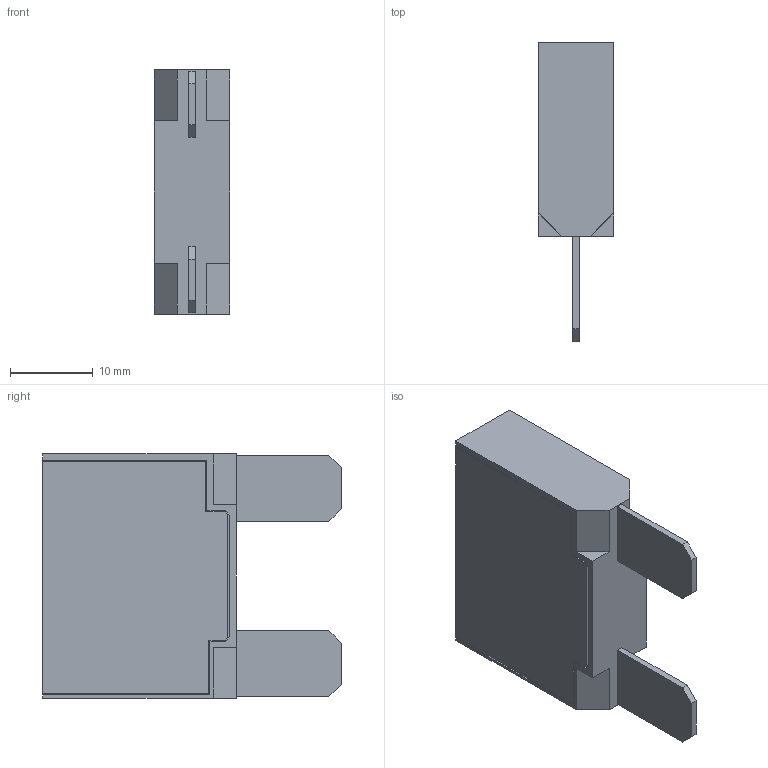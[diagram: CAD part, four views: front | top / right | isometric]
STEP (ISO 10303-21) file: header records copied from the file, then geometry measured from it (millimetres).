
FILE_DESCRIPTION(/* description */ (''),/* implementation_level */ '2;1');
FILE_NAME(/* name */ 'C:\Users\Hani\Desktop\work\ACBM-PX\ACBM-PX.stp',/* time_stamp */ '2021-10-09T16:32:25-07:00',/* author */ ('Hani'),/* organization */ (''),/* preprocessor_version */ 'ST-DEVELOPER v17',/* originating_system */ 'Autodesk Inventor 2019',/* authorisation */ '');
FILE_SCHEMA (('AUTOMOTIVE_DESIGN { 1 0 10303 214 3 1 1 }'));
Length unit declared in the file: inch
Products named in the file (1): ACBM-PX
Bounding box: 9.14 x 36.1 x 29.5 mm (x, y, z)
Volume: 6341.2 mm3; surface area: 3054.2 mm2
Topology: 1 solids, 1 shells, 204 faces, 564 edges, 376 vertices
Faces by surface type: plane 137, bspline 67
Entity records: 7028 total; most frequent: CARTESIAN_POINT 2217, ORIENTED_EDGE 1128, DIRECTION 706, EDGE_CURVE 564, LINE 430, VECTOR 430, VERTEX_POINT 376, EDGE_LOOP 218
